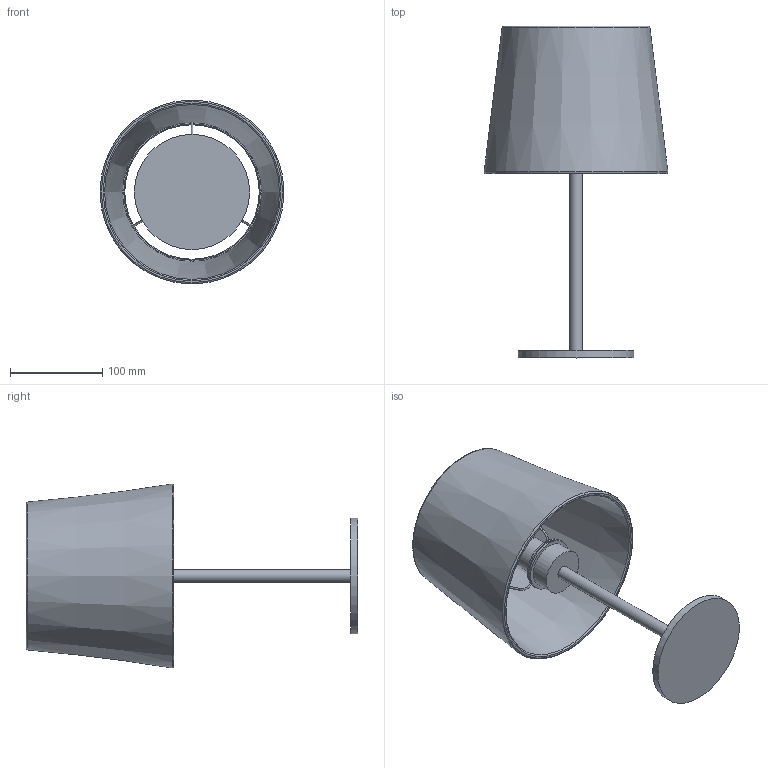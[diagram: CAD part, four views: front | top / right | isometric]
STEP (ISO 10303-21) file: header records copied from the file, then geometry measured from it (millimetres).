
FILE_DESCRIPTION(/* description */ (''),/* implementation_level */ '2;1');
FILE_NAME(/* name */ 'C:/Users/kubaw/OneDrive/Pulpit/Nowy folder/2935_MAJA/2935_MAJA v5.step',/* time_stamp */ '2021-03-13T09:42:20+01:00',/* author */ (''),/* organization */ (''),/* preprocessor_version */ 'ST-DEVELOPER v18.1',/* originating_system */ 'Autodesk Translation Framework v9.10.0.1330',/* authorisation */ '');
FILE_SCHEMA (('AUTOMOTIVE_DESIGN { 1 0 10303 214 3 1 1 }'));
Length unit declared in the file: millimetre
Products named in the file (2): 2935_MAJA; MOCOWANIE_MAJA
Assembly tree (1 placements, depth 2):
  2935_MAJA
    MOCOWANIE_MAJA
Bounding box: 199.6 x 360 x 199.6 mm (x, y, z)
Volume: 640129.4 mm3; surface area: 249424.4 mm2
Topology: 11 solids, 11 shells, 53 faces, 82 edges, 54 vertices
Faces by surface type: plane 25, cylinder 16, torus 9, cone 2, bspline 1
Full cylindrical faces by diameter (mm): 2 x6, 14 x1, 31 x1, 36 x1, 37 x1, 40 x1, 50 x1, 56 x1, 58 x1, 125 x1, 146 x1
Entity records: 1393 total; most frequent: CARTESIAN_POINT 312, DIRECTION 252, ORIENTED_EDGE 164, AXIS2_PLACEMENT_3D 117, EDGE_CURVE 82, CIRCLE 61, EDGE_LOOP 60, VERTEX_POINT 54
